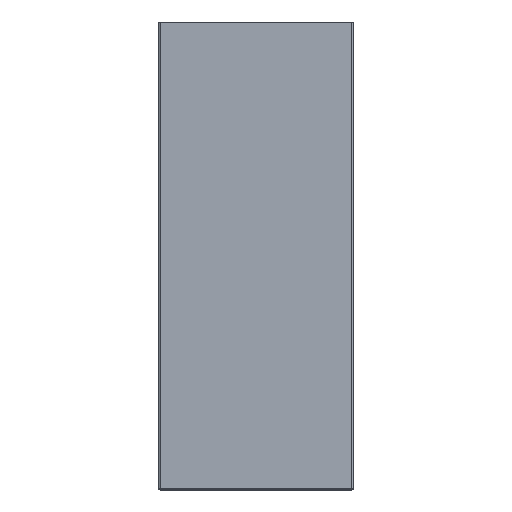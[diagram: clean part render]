
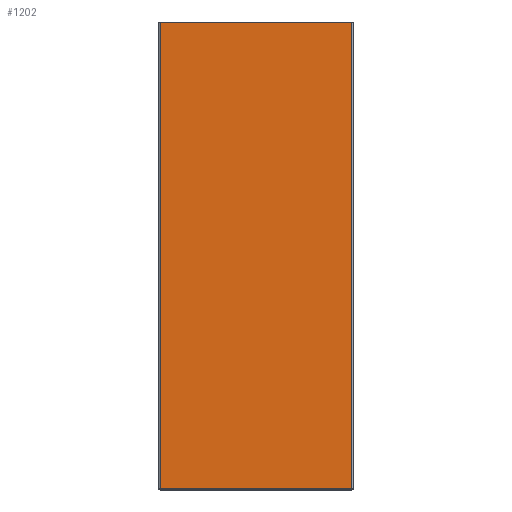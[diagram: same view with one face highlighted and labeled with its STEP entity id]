
A CAD part, left-side view. The second image highlights one B-rep face of the part: STEP entity #1202.
In plain terms, the highlighted planar face has unit normal (-1, 0, 0).
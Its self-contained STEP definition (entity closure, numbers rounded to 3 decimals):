
#1182=AXIS2_PLACEMENT_3D('Plane Axis2P3D',#1179,#1180,#1181) ;
#991=CARTESIAN_POINT('Vertex',(-1200.,-198.,480.)) ;
#1033=CARTESIAN_POINT('Vertex',(-1200.,-2.,480.)) ;
#1036=CARTESIAN_POINT('Line Origine',(-1200.,-100.,480.)) ;
#1112=CARTESIAN_POINT('Line Origine',(-1200.,-2.,240.)) ;
#1116=CARTESIAN_POINT('Vertex',(-1200.,-2.,2.)) ;
#1179=CARTESIAN_POINT('Axis2P3D Location',(-1200.,0.,0.)) ;
#1184=CARTESIAN_POINT('Line Origine',(-1200.,-100.,2.)) ;
#1188=CARTESIAN_POINT('Vertex',(-1200.,-198.,2.)) ;
#1191=CARTESIAN_POINT('Line Origine',(-1200.,-198.,241.)) ;
#1037=DIRECTION('Vector Direction',(0.,-1.,0.)) ;
#1113=DIRECTION('Vector Direction',(0.,0.,1.)) ;
#1180=DIRECTION('Axis2P3D Direction',(1.,0.,-0.)) ;
#1181=DIRECTION('Axis2P3D XDirection',(0.,0.,1.)) ;
#1185=DIRECTION('Vector Direction',(0.,1.,0.)) ;
#1192=DIRECTION('Vector Direction',(0.,0.,1.)) ;
#1038=VECTOR('Line Direction',#1037,1.) ;
#1114=VECTOR('Line Direction',#1113,1.) ;
#1186=VECTOR('Line Direction',#1185,1.) ;
#1193=VECTOR('Line Direction',#1192,1.) ;
#1197=ORIENTED_EDGE('',*,*,#1190,.T.) ;
#1198=ORIENTED_EDGE('',*,*,#1195,.T.) ;
#1199=ORIENTED_EDGE('',*,*,#1040,.F.) ;
#1200=ORIENTED_EDGE('',*,*,#1118,.F.) ;
#1202=ADVANCED_FACE('STRUTTURA',(#1201),#1183,.F.) ;
#1040=EDGE_CURVE('',#1034,#992,#1039,.T.) ;
#1118=EDGE_CURVE('',#1117,#1034,#1115,.T.) ;
#1190=EDGE_CURVE('',#1117,#1189,#1187,.F.) ;
#1195=EDGE_CURVE('',#1189,#992,#1194,.T.) ;
#1196=EDGE_LOOP('',(#1197,#1198,#1199,#1200)) ;
#1201=FACE_OUTER_BOUND('',#1196,.T.) ;
#1039=LINE('Line',#1036,#1038) ;
#1115=LINE('Line',#1112,#1114) ;
#1187=LINE('Line',#1184,#1186) ;
#1194=LINE('Line',#1191,#1193) ;
#1183=PLANE('Plane',#1182) ;
#992=VERTEX_POINT('',#991) ;
#1034=VERTEX_POINT('',#1033) ;
#1117=VERTEX_POINT('',#1116) ;
#1189=VERTEX_POINT('',#1188) ;
